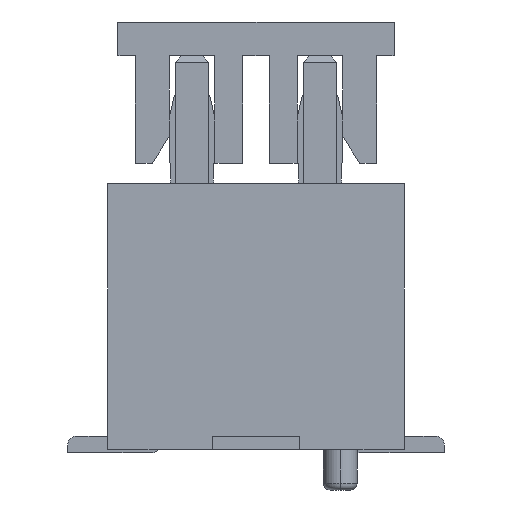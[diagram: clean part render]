
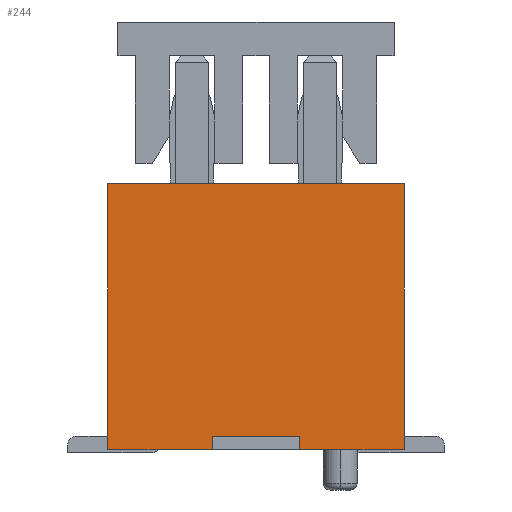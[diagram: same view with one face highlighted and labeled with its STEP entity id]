
A CAD part, left-side view. The second image highlights one B-rep face of the part: STEP entity #244.
In plain terms, the highlighted planar face has unit normal (-1, 0, 0).
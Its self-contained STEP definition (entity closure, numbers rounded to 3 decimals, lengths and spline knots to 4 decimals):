
#173=CARTESIAN_POINT('Axis2P3D Location',(-5.85,0.,0.)) ;
#178=CARTESIAN_POINT('Line Origine',(-5.85,0.65,0.1)) ;
#182=CARTESIAN_POINT('Vertex',(-5.85,0.65,0.)) ;
#184=CARTESIAN_POINT('Vertex',(-5.85,0.65,0.2)) ;
#187=CARTESIAN_POINT('Line Origine',(-5.85,0.,0.2)) ;
#191=CARTESIAN_POINT('Vertex',(-5.85,-0.65,0.2)) ;
#194=CARTESIAN_POINT('Line Origine',(-5.85,-0.65,0.1)) ;
#198=CARTESIAN_POINT('Vertex',(-5.85,-0.65,0.)) ;
#201=CARTESIAN_POINT('Line Origine',(-5.85,-1.425,0.)) ;
#205=CARTESIAN_POINT('Vertex',(-5.85,-2.2,0.)) ;
#208=CARTESIAN_POINT('Line Origine',(-5.85,-2.2,1.975)) ;
#212=CARTESIAN_POINT('Vertex',(-5.85,-2.2,3.95)) ;
#215=CARTESIAN_POINT('Line Origine',(-5.85,0.,3.95)) ;
#219=CARTESIAN_POINT('Vertex',(-5.85,2.2,3.95)) ;
#222=CARTESIAN_POINT('Line Origine',(-5.85,2.2,1.975)) ;
#226=CARTESIAN_POINT('Vertex',(-5.85,2.2,0.)) ;
#229=CARTESIAN_POINT('Line Origine',(-5.85,1.425,0.)) ;
#174=DIRECTION('Axis2P3D Direction',(1.,0.,0.)) ;
#175=DIRECTION('Axis2P3D XDirection',(0.,1.,0.)) ;
#179=DIRECTION('Vector Direction',(0.,0.,1.)) ;
#188=DIRECTION('Vector Direction',(0.,1.,0.)) ;
#195=DIRECTION('Vector Direction',(0.,0.,1.)) ;
#202=DIRECTION('Vector Direction',(0.,1.,0.)) ;
#209=DIRECTION('Vector Direction',(0.,0.,-1.)) ;
#216=DIRECTION('Vector Direction',(0.,1.,0.)) ;
#223=DIRECTION('Vector Direction',(0.,0.,-1.)) ;
#230=DIRECTION('Vector Direction',(0.,1.,0.)) ;
#176=AXIS2_PLACEMENT_3D('Plane Axis2P3D',#173,#174,#175) ;
#235=ORIENTED_EDGE('',*,*,#186,.T.) ;
#236=ORIENTED_EDGE('',*,*,#193,.F.) ;
#237=ORIENTED_EDGE('',*,*,#200,.F.) ;
#238=ORIENTED_EDGE('',*,*,#207,.F.) ;
#239=ORIENTED_EDGE('',*,*,#214,.F.) ;
#240=ORIENTED_EDGE('',*,*,#221,.F.) ;
#241=ORIENTED_EDGE('',*,*,#228,.F.) ;
#242=ORIENTED_EDGE('',*,*,#233,.F.) ;
#180=VECTOR('Line Direction',#179,1.) ;
#189=VECTOR('Line Direction',#188,1.) ;
#196=VECTOR('Line Direction',#195,1.) ;
#203=VECTOR('Line Direction',#202,1.) ;
#210=VECTOR('Line Direction',#209,1.) ;
#217=VECTOR('Line Direction',#216,1.) ;
#224=VECTOR('Line Direction',#223,1.) ;
#231=VECTOR('Line Direction',#230,1.) ;
#244=ADVANCED_FACE('\X2\96F64EF651E04F554F53\X0\',(#243),#177,.F.) ;
#186=EDGE_CURVE('',#183,#185,#181,.T.) ;
#193=EDGE_CURVE('',#192,#185,#190,.T.) ;
#200=EDGE_CURVE('',#199,#192,#197,.T.) ;
#207=EDGE_CURVE('',#206,#199,#204,.T.) ;
#214=EDGE_CURVE('',#213,#206,#211,.T.) ;
#221=EDGE_CURVE('',#220,#213,#218,.F.) ;
#228=EDGE_CURVE('',#227,#220,#225,.F.) ;
#233=EDGE_CURVE('',#183,#227,#232,.T.) ;
#234=EDGE_LOOP('',(#235,#236,#237,#238,#239,#240,#241,#242)) ;
#243=FACE_OUTER_BOUND('',#234,.T.) ;
#181=LINE('Line',#178,#180) ;
#190=LINE('Line',#187,#189) ;
#197=LINE('Line',#194,#196) ;
#204=LINE('Line',#201,#203) ;
#211=LINE('Line',#208,#210) ;
#218=LINE('Line',#215,#217) ;
#225=LINE('Line',#222,#224) ;
#232=LINE('Line',#229,#231) ;
#177=PLANE('Plane',#176) ;
#183=VERTEX_POINT('',#182) ;
#185=VERTEX_POINT('',#184) ;
#192=VERTEX_POINT('',#191) ;
#199=VERTEX_POINT('',#198) ;
#206=VERTEX_POINT('',#205) ;
#213=VERTEX_POINT('',#212) ;
#220=VERTEX_POINT('',#219) ;
#227=VERTEX_POINT('',#226) ;
